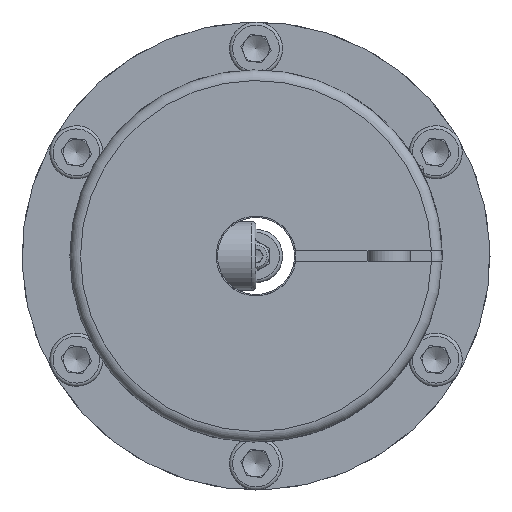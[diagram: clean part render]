
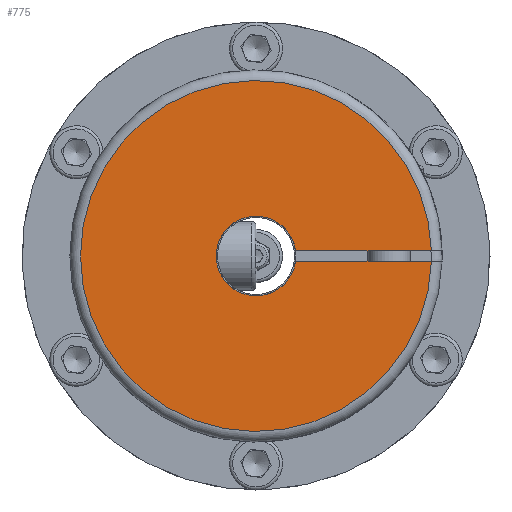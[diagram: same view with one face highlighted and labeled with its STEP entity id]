
A CAD part, left-side view. The second image highlights one B-rep face of the part: STEP entity #775.
In plain terms, the highlighted planar face has unit normal (-1, 0, 0).
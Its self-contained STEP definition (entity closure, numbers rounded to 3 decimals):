
#775 = ADVANCED_FACE( '', ( #1585 ), #1586, .F. );
#1585 = FACE_OUTER_BOUND( '', #2716, .T. );
#1586 = PLANE( '', #2717 );
#2716 = EDGE_LOOP( '', ( #4994, #4995, #4996, #4997 ) );
#2717 = AXIS2_PLACEMENT_3D( '', #4998, #4999, #5000 );
#4994 = ORIENTED_EDGE( '', *, *, #7593, .T. );
#4995 = ORIENTED_EDGE( '', *, *, #7592, .F. );
#4996 = ORIENTED_EDGE( '', *, *, #7589, .T. );
#4997 = ORIENTED_EDGE( '', *, *, #7594, .T. );
#4998 = CARTESIAN_POINT( '', ( -29., 0., 33. ) );
#4999 = DIRECTION( '', ( 1., 0., 0. ) );
#5000 = DIRECTION( '', ( 0., 0., -1. ) );
#7589 = EDGE_CURVE( '', #9129, #9141, #9143, .T. );
#7592 = EDGE_CURVE( '', #9129, #9145, #9148, .T. );
#7593 = EDGE_CURVE( '', #9149, #9145, #9150, .T. );
#7594 = EDGE_CURVE( '', #9141, #9149, #9151, .T. );
#9129 = VERTEX_POINT( '', #13475 );
#9141 = VERTEX_POINT( '', #13507 );
#9143 = LINE( '', #13522, #13523 );
#9145 = VERTEX_POINT( '', #13525 );
#9148 = CIRCLE( '', #13529, 7.5 );
#9149 = VERTEX_POINT( '', #13530 );
#9150 = LINE( '', #13531, #13532 );
#9151 = CIRCLE( '', #13533, 33. );
#13475 = CARTESIAN_POINT( '', ( -29., -7.25, -1.921 ) );
#13507 = CARTESIAN_POINT( '', ( -29., -30.857, -11.699 ) );
#13522 = CARTESIAN_POINT( '', ( -29., -0.383, 0.924 ) );
#13523 = VECTOR( '', #16315, 1000. );
#13525 = CARTESIAN_POINT( '', ( -29., -6.485, -3.768 ) );
#13529 = AXIS2_PLACEMENT_3D( '', #16320, #16321, #16322 );
#13530 = CARTESIAN_POINT( '', ( -29., -30.091, -13.547 ) );
#13531 = CARTESIAN_POINT( '', ( -29., -34.725, -15.466 ) );
#13532 = VECTOR( '', #16323, 1000. );
#13533 = AXIS2_PLACEMENT_3D( '', #16324, #16325, #16326 );
#16315 = DIRECTION( '', ( 0., -0.924, -0.383 ) );
#16320 = CARTESIAN_POINT( '', ( -29., 0., 0. ) );
#16321 = DIRECTION( '', ( -1., 0., 0. ) );
#16322 = DIRECTION( '', ( 0., 0., 1. ) );
#16323 = DIRECTION( '', ( 0., 0.924, 0.383 ) );
#16324 = CARTESIAN_POINT( '', ( -29., 0., 0. ) );
#16325 = DIRECTION( '', ( -1., 0., 0. ) );
#16326 = DIRECTION( '', ( 0., 0., 1. ) );
